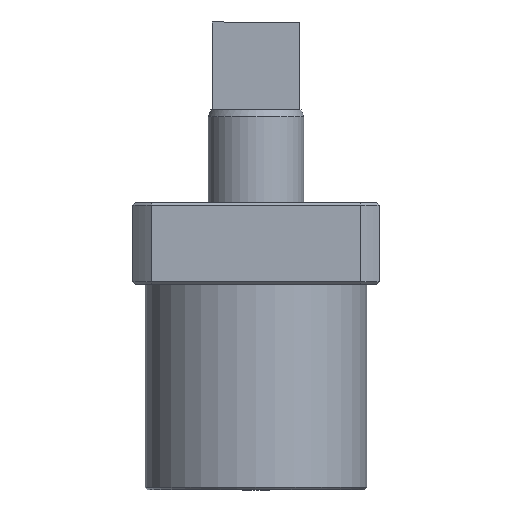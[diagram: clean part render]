
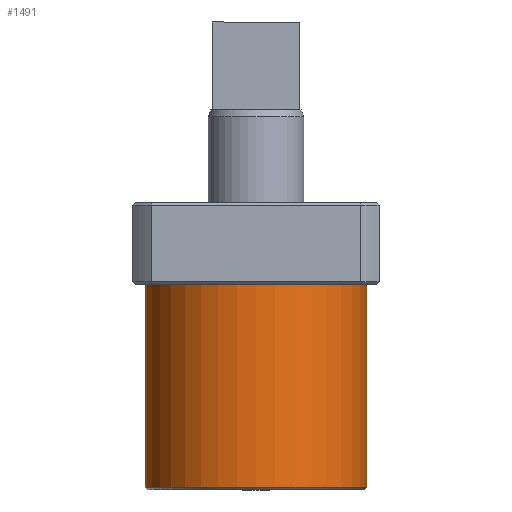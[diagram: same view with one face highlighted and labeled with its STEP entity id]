
A CAD part, left-side view. The second image highlights one B-rep face of the part: STEP entity #1491.
In plain terms, the highlighted cylindrical face has radius 40.5 mm (diameter 81 mm), a full revolution.
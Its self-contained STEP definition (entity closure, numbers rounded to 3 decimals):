
#215=CYLINDRICAL_SURFACE('',#1701,40.5);
#431=ORIENTED_EDGE('',*,*,#720,.T.);
#432=ORIENTED_EDGE('',*,*,#719,.F.);
#719=EDGE_CURVE('',#885,#885,#1003,.T.);
#720=EDGE_CURVE('',#886,#886,#1004,.T.);
#885=VERTEX_POINT('',#2511);
#886=VERTEX_POINT('',#2514);
#1003=CIRCLE('',#1700,40.5);
#1004=CIRCLE('',#1702,40.5);
#1141=EDGE_LOOP('',(#431));
#1142=EDGE_LOOP('',(#432));
#1325=FACE_BOUND('',#1141,.T.);
#1326=FACE_BOUND('',#1142,.T.);
#1491=ADVANCED_FACE('',(#1325,#1326),#215,.T.);
#1700=AXIS2_PLACEMENT_3D('',#2510,#2025,#2026);
#1701=AXIS2_PLACEMENT_3D('',#2512,#2027,#2028);
#1702=AXIS2_PLACEMENT_3D('',#2513,#2029,#2030);
#2025=DIRECTION('',(0.,0.,1.));
#2026=DIRECTION('',(0.,-1.,0.));
#2027=DIRECTION('',(0.,0.,1.));
#2028=DIRECTION('',(0.,-1.,0.));
#2029=DIRECTION('',(0.,0.,1.));
#2030=DIRECTION('',(1.,0.,0.));
#2510=CARTESIAN_POINT('',(0.,47.,-10.4));
#2511=CARTESIAN_POINT('',(0.,6.5,-10.4));
#2512=CARTESIAN_POINT('',(0.,47.,-85.4));
#2513=CARTESIAN_POINT('',(0.,47.,-84.4));
#2514=CARTESIAN_POINT('',(40.5,47.,-84.4));
